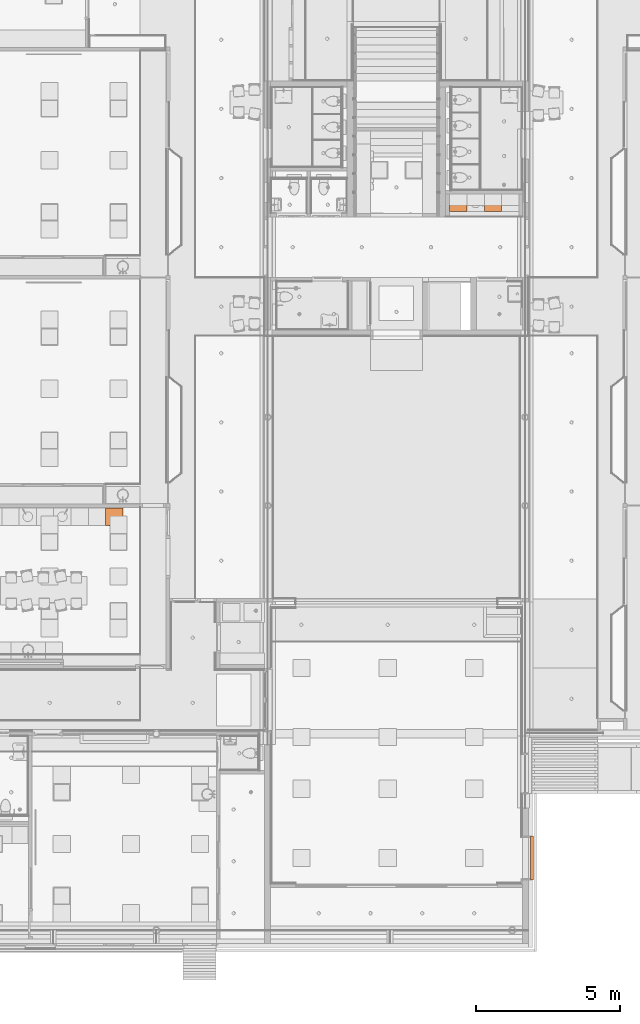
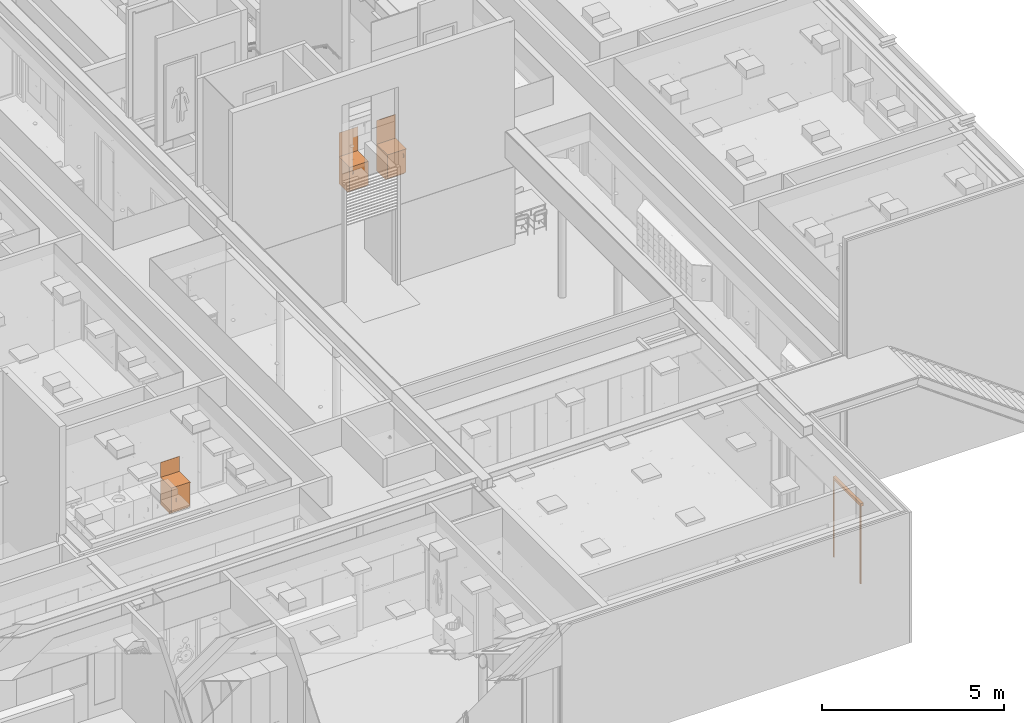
# One storey, part 346 of 347: 4 proxies.
"""IFC2X3 building model written with IfcOpenShell, lengths in millimetres."""

import ifcopenshell
import ifcopenshell.guid

model = None  # the IFC model being written
_history = None  # IfcOwnerHistory: only IFC2X3 demands one
_inside = {}  # id of a spatial element -> (the spatial element, [elements in it])
_under = {}  # id of a project, library or spatial element -> (it, [spatial elements below it])
_declared = {}  # id of a project -> (the project, [libraries it declares])
_typed = {}  # id of a type object -> (the type object, [elements of that type])
_made_of = {}  # id of a material, layer set ... -> (it, [elements and type objects made of it])


def new_model(schema):
    """Start an empty IFC model of exactly this schema.

    Asked for "IFC4X3", IfcOpenShell would pick the latest addendum, in which some entities
    have other attributes; the version numbers below select the first issue.
    IFC2X3 requires an IfcOwnerHistory on every rooted entity: one is made here for all.
    """
    global model, _history
    if schema == "IFC4X3":
        model = ifcopenshell.file(schema_version=(4, 3, 0, 0))
    else:
        model = ifcopenshell.file(schema=schema)
    _inside.clear()
    _under.clear()
    _declared.clear()
    _typed.clear()
    _made_of.clear()
    _history = None
    if model.schema == "IFC2X3":
        org = make("IfcOrganization", Name="unknown")
        user = make(
            "IfcPersonAndOrganization",
            ThePerson=make("IfcPerson", FamilyName="unknown"),
            TheOrganization=org,
        )
        app = make(
            "IfcApplication",
            ApplicationDeveloper=org,
            Version="unknown",
            ApplicationFullName="unknown",
            ApplicationIdentifier="unknown",
        )
        _history = make(
            "IfcOwnerHistory",
            OwningUser=user,
            OwningApplication=app,
            ChangeAction="ADDED",
            CreationDate=0,
        )
    return model


def make(cls, **values):
    """One entity of the class cls with the attributes given. An attribute that is None is left unset."""
    return model.create_entity(
        cls, **{name: value for name, value in values.items() if value is not None}
    )


def entity(cls, *values):
    """Any entity or typed value of the class cls, its attributes in the order of the schema. None: left unset."""
    e = model.create_entity(cls)
    for i, value in enumerate(values):
        if value is not None:
            e[i] = value
    return e


def rooted(cls, **values):
    """An entity with a GlobalId (a new one), such as an element, a storey or a relation."""
    return make(cls, GlobalId=ifcopenshell.guid.new(), OwnerHistory=_history, **values)


def si_unit(unit_type, name, prefix=None):
    """IfcSIUnit, for example si_unit("LENGTHUNIT", "METRE", prefix="MILLI")."""
    return make("IfcSIUnit", UnitType=unit_type, Prefix=prefix, Name=name)


def converted_unit(unit_type, name, factor, base, dimensions=None, offset=None):
    """IfcConversionBasedUnit, such as the inch: factor (a typed value) times the base unit."""
    return make(
        "IfcConversionBasedUnit"
        if offset is None
        else "IfcConversionBasedUnitWithOffset",
        ConversionOffset=offset,
        Dimensions=None
        if dimensions is None
        else entity("IfcDimensionalExponents", *dimensions),
        UnitType=unit_type,
        Name=name,
        ConversionFactor=make(
            "IfcMeasureWithUnit", ValueComponent=factor, UnitComponent=base
        ),
    )


def derived_unit(unit_type, elements):
    """IfcDerivedUnit: a product of units, each with its exponent."""
    return make(
        "IfcDerivedUnit",
        Elements=[
            make("IfcDerivedUnitElement", Unit=unit, Exponent=power)
            for unit, power in elements
        ],
        UnitType=unit_type,
    )


def money_unit(currency):
    """IfcMonetaryUnit."""
    return make("IfcMonetaryUnit", Currency=currency)


def assignment(units):
    """IfcUnitAssignment: the units of a project."""
    return None if units is None else make("IfcUnitAssignment", Units=units)


def point(xyz):
    """IfcCartesianPoint."""
    return None if xyz is None else make("IfcCartesianPoint", Coordinates=xyz)


def direction(xyz):
    """IfcDirection."""
    return None if xyz is None else make("IfcDirection", DirectionRatios=xyz)


def frame(location, z_axis=None, x_axis=None):
    """IfcAxis2Placement3D, a coordinate frame: its origin and axes. An axis left out is left unset."""
    return make(
        "IfcAxis2Placement3D",
        Location=point(location),
        Axis=direction(z_axis),
        RefDirection=direction(x_axis),
    )


def origin_with_axes():
    """The frame at (0, 0, 0) with the z axis (0, 0, 1) and the x axis (1, 0, 0) written out."""
    return frame((0.0, 0.0, 0.0), z_axis=(0.0, 0.0, 1.0), x_axis=(1.0, 0.0, 0.0))


def place(relative_to, where):
    """IfcLocalPlacement: puts the frame where relative to a parent placement (None: the world)."""
    return make(
        "IfcLocalPlacement", PlacementRelTo=relative_to, RelativePlacement=where
    )


def context(
    kind, dimensions, precision=None, world=None, true_north=None, identifier=None
):
    """IfcGeometricRepresentationContext, for example the 3D "Model" context."""
    return make(
        "IfcGeometricRepresentationContext",
        ContextIdentifier=identifier,
        ContextType=kind,
        CoordinateSpaceDimension=dimensions,
        Precision=precision,
        WorldCoordinateSystem=world,
        TrueNorth=true_north,
    )


def subcontext(parent, identifier, kind, view, scale=None):
    """IfcGeometricRepresentationSubContext, for example "Body" below "Model"."""
    return make(
        "IfcGeometricRepresentationSubContext",
        ContextIdentifier=identifier,
        ContextType=kind,
        ParentContext=parent,
        TargetScale=scale,
        TargetView=view,
    )


def project(units=None, contexts=None):
    """IfcProject with its units and contexts."""
    return rooted(
        "IfcProject",
        Name="project",
        RepresentationContexts=contexts,
        UnitsInContext=assignment(units),
    )


def spatial(cls, under=None, at=None, **own):
    """A site, building, storey or space (cls), placed at a placement, below another one or the project."""
    s = rooted(cls, ObjectPlacement=at, **own)
    if under is not None:
        _under.setdefault(under.id(), (under, []))[1].append(s)
    return s


def faces_of(points, faces, orient=None, outer=None):
    """IfcFace entities. A face is a list of loops; a loop is a list of indices into points, from 0.

    orient and outer hold one flag for each loop. By default every Orientation is true, the
    first loop of a face is its IfcFaceOuterBound and the others are IfcFaceBound.
    """
    made = []
    for i, loops in enumerate(faces):
        bounds = []
        for j, loop in enumerate(loops):
            is_outer = j == 0 if outer is None else outer[i][j]
            bounds.append(
                make(
                    "IfcFaceOuterBound" if is_outer else "IfcFaceBound",
                    Bound=make("IfcPolyLoop", Polygon=[points[k] for k in loop]),
                    Orientation=True if orient is None else orient[i][j],
                )
            )
        made.append(make("IfcFace", Bounds=bounds))
    return made


def open_shell(faces, orient=None, outer=None):
    """The faces of one IfcOpenShell. surface_model builds it on its shared points."""
    return ("IfcOpenShell", faces, orient, outer)


def faceted_brep(points, faces, orient=None, outer=None, voids=None):
    """IfcFacetedBrep: a solid bounded by flat faces; with voids (closed shells), ...WithVoids."""
    shared = [point(p) for p in points]
    hull = make("IfcClosedShell", CfsFaces=faces_of(shared, faces, orient, outer))
    if voids is None:
        return make("IfcFacetedBrep", Outer=hull)
    return make(
        "IfcFacetedBrepWithVoids",
        Outer=hull,
        Voids=[
            make(cls, CfsFaces=faces_of(shared, fs, o, b)) for cls, fs, o, b in voids
        ],
    )


def surface_model(cls, points, shells):
    """IfcFaceBasedSurfaceModel or IfcShellBasedSurfaceModel (cls): surfaces that need not close."""
    shared = [point(p) for p in points]
    made = [make(c, CfsFaces=faces_of(shared, fs, o, b)) for c, fs, o, b in shells]
    if cls == "IfcFaceBasedSurfaceModel":
        return make(cls, FbsmFaces=made)
    return make(cls, SbsmBoundary=made)


def shape(context_of_items, identifier, shape_type, items):
    """IfcShapeRepresentation: the items that make up one representation, for example the "Body"."""
    return make(
        "IfcShapeRepresentation",
        ContextOfItems=context_of_items,
        RepresentationIdentifier=identifier,
        RepresentationType=shape_type,
        Items=items,
    )


def made_of(thing, what):
    """Note that an element or type object is made of a material, layer set ...; save() writes the relation."""
    if what is not None:
        _made_of.setdefault(what.id(), (what, []))[1].append(thing)
    return thing


def type_object(cls, material=None, **own):
    """A type object (cls), such as IfcWallType, which elements share."""
    return made_of(rooted(cls, **own), material)


def element(
    cls,
    number,
    at=None,
    inside=None,
    cuts=None,
    type_object=None,
    material=None,
    context=None,
    identifier="Body",
    shape_type=None,
    held_by="IfcProductDefinitionShape",
    body=None,
    shapes=None,
    **own,
):
    """One element of the class cls, such as IfcWall. Its Tag is "e" and its number.

    at: its placement. inside: the storey or other place that contains it. cuts: it is an
    opening in that element (IfcRelVoidsElement). A single representation is given by context,
    identifier, shape_type and body (its items); several are given by shapes. held_by: the class
    of the entity that holds the representations. save() writes the other relations.
    """
    e = rooted(cls, Tag="e%d" % number, ObjectPlacement=at, **own)
    if body is not None:
        shapes = [shape(context, identifier, shape_type, body)]
    if shapes is not None:
        e.Representation = make(held_by, Representations=shapes)
    if inside is not None:
        _inside.setdefault(inside.id(), (inside, []))[1].append(e)
    if cuts is not None:
        rooted(
            "IfcRelVoidsElement", RelatingBuildingElement=cuts, RelatedOpeningElement=e
        )
    if type_object is not None:
        _typed.setdefault(type_object.id(), (type_object, []))[1].append(e)
    return made_of(e, material)


def aggregate(whole, parts):
    """IfcRelAggregates: a whole, such as a stair, and the parts it consists of."""
    return rooted("IfcRelAggregates", RelatingObject=whole, RelatedObjects=parts)


def save(model, path):
    """Write the relations noted so far, then the file.

    IfcRelAggregates (storeys below a building ...), IfcRelContainedInSpatialStructure (elements
    in a storey), IfcRelDefinesByType, IfcRelAssociatesMaterial and IfcRelDeclares: one each for
    every whole, place, type object, material and project.
    """
    for whole, parts in _under.values():
        aggregate(whole, parts)
    for where, things in _inside.values():
        rooted(
            "IfcRelContainedInSpatialStructure",
            RelatedElements=things,
            RelatingStructure=where,
        )
    for kind, things in _typed.values():
        rooted("IfcRelDefinesByType", RelatedObjects=things, RelatingType=kind)
    for what, things in _made_of.values():
        rooted("IfcRelAssociatesMaterial", RelatedObjects=things, RelatingMaterial=what)
    for by, libraries in _declared.values():
        rooted("IfcRelDeclares", RelatingContext=by, RelatedDefinitions=libraries)
    model.write(path)


model = new_model("IFC2X3")

# Units and contexts
model_context = context("Model", 3, precision=0.01, world=origin_with_axes(), true_north=direction((0.0, 1.0)))
plan_context = context("Plan", 3, precision=0.01, world=origin_with_axes(), true_north=direction((0.0, 1.0)))
body_context = subcontext(model_context, "Body", "Model", "MODEL_VIEW")
ifc_project = project(units=[si_unit("LENGTHUNIT", "METRE", prefix="MILLI"), si_unit("AREAUNIT", "SQUARE_METRE"), si_unit("VOLUMEUNIT", "CUBIC_METRE"), converted_unit("PLANEANGLEUNIT", "DEGREE", entity("IfcPlaneAngleMeasure", 0.0174532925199), si_unit("PLANEANGLEUNIT", "RADIAN"), dimensions=[0, 0, 0, 0, 0, 0, 0]), money_unit("EUR"), converted_unit("TIMEUNIT", "Year", entity("IfcTimeMeasure", 31556926.0), si_unit("TIMEUNIT", "SECOND"), dimensions=[0, 0, 1, 0, 0, 0, 0]), si_unit("MASSUNIT", "GRAM", prefix="KILO"), si_unit("THERMODYNAMICTEMPERATUREUNIT", "DEGREE_CELSIUS"), si_unit("LUMINOUSINTENSITYUNIT", "LUMEN"), si_unit("ENERGYUNIT", "JOULE", prefix="MEGA"), derived_unit("THERMALCONDUCTANCEUNIT", [(si_unit("POWERUNIT", "WATT"), 1), (si_unit("LENGTHUNIT", "METRE"), -1), (si_unit("THERMODYNAMICTEMPERATUREUNIT", "KELVIN"), -1)]), derived_unit("SPECIFICHEATCAPACITYUNIT", [(si_unit("ENERGYUNIT", "JOULE"), 1), (si_unit("MASSUNIT", "GRAM", prefix="KILO"), -1), (si_unit("THERMODYNAMICTEMPERATUREUNIT", "KELVIN"), -1)]), derived_unit("MASSDENSITYUNIT", [(si_unit("MASSUNIT", "GRAM", prefix="KILO"), 1), (si_unit("VOLUMEUNIT", "CUBIC_METRE"), -1)])], contexts=[model_context, plan_context])

# Site, building, storey
site_placement = place(None, origin_with_axes())
site = spatial("IfcSite", under=ifc_project, at=site_placement, Name="Site", CompositionType="ELEMENT")
building_placement = place(site_placement, origin_with_axes())
building = spatial("IfcBuilding", under=site, at=building_placement, Name="Naam gebouw", CompositionType="ELEMENT")
storey_placement = place(building_placement, origin_with_axes())
storey = spatial("IfcBuildingStorey", under=building, at=storey_placement, Name="begane grond", CompositionType="ELEMENT", Elevation=0.0)

# Proxies
building_element_proxy_type_1 = type_object("IfcBuildingElementProxyType", Name="Onderkast recht 25", PredefinedType="NOTDEFINED")
proxy_1_placement = place(storey_placement, frame((43125.0, 30864.9999277, 0.0), z_axis=(0.0, 0.0, 1.0), x_axis=(1.0, 0.0, 0.0)))
element("IfcBuildingElementProxy", 1, at=proxy_1_placement, inside=storey, type_object=building_element_proxy_type_1, Name="_73 pantryblok", context=body_context, shape_type="Brep", body=[
    faceted_brep([(600.0, -492.0, 2.0), (600.0, 1.1205766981e-05, 2.0), (600.0, 0.0, 100.0), (600.0, -492.0, 100.0), (0.0, 1.1205766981e-05, 2.0), (0.0, -492.0, 2.0), (0.0, 0.0, 100.0), (0.0, -492.0, 100.0)], [[[0, 1, 2, 3]], [[4, 1, 0, 5]], [[1, 4, 6, 2]], [[6, 7, 3, 2]], [[5, 0, 3, 7]], [[4, 5, 7, 6]]]),
    faceted_brep([(0.0, -600.0, 870.0), (600.0, -600.0, 870.0), (600.0, -600.0, 900.0), (0.0, -600.0, 900.0), (0.0, 0.0, 870.0), (600.0, 0.0, 870.0), (600.0, 0.0, 900.0), (0.0, 0.0, 900.0)], [[[0, 1, 2, 3]], [[0, 4, 5, 1]], [[1, 5, 6, 2]], [[3, 2, 6, 7]], [[4, 0, 3, 7]], [[5, 4, 7, 6]]]),
    faceted_brep([(600.0, 0.0, 900.0), (600.0, -6.0, 900.0), (0.0, -6.0, 900.0), (0.0, 0.0, 900.0), (600.0, 0.0, 1700.0), (600.0, -6.0, 1700.0), (0.0, -6.0, 1700.0), (0.0, 0.0, 1700.0)], [[[0, 1, 2, 3]], [[0, 4, 5, 1]], [[1, 5, 6, 2]], [[3, 2, 6, 7]], [[4, 0, 3, 7]], [[5, 4, 7, 6]]]),
    faceted_brep([(496.0, -590.0, 641.0), (496.0, -590.0, 651.0), (506.0, -590.0, 651.0), (506.0, -590.0, 641.0), (496.0, -600.0, 641.0), (496.0, -603.472963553, 641.30384494), (496.0, -606.840402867, 642.206147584), (496.0, -610.0, 643.679491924), (496.0, -612.855752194, 645.679111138), (496.0, -615.320888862, 648.144247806), (496.0, -617.320508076, 651.0), (496.0, -618.793852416, 654.159597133), (496.0, -619.69615506, 657.527036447), (496.0, -620.0, 661.0), (496.0, -620.0, 741.0), (496.0, -619.69615506, 744.472963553), (496.0, -618.793852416, 747.840402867), (496.0, -617.320508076, 751.0), (496.0, -615.320888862, 753.855752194), (496.0, -612.855752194, 756.320888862), (496.0, -610.0, 758.320508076), (496.0, -606.840402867, 759.793852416), (496.0, -603.472963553, 760.69615506), (496.0, -600.0, 761.0), (496.0, -590.0, 761.0), (496.0, -590.0, 751.0), (496.0, -600.0, 751.0), (496.0, -601.736481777, 750.84807753), (496.0, -603.420201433, 750.396926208), (496.0, -605.0, 749.660254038), (496.0, -606.427876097, 748.660444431), (496.0, -607.660444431, 747.427876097), (496.0, -608.660254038, 746.0), (496.0, -609.396926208, 744.420201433), (496.0, -609.84807753, 742.736481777), (496.0, -610.0, 741.0), (496.0, -610.0, 661.0), (496.0, -609.84807753, 659.263518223), (496.0, -609.396926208, 657.579798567), (496.0, -608.660254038, 656.0), (496.0, -607.660444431, 654.572123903), (496.0, -606.427876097, 653.339555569), (496.0, -605.0, 652.339745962), (496.0, -603.420201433, 651.603073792), (496.0, -601.736481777, 651.15192247), (496.0, -600.0, 651.0), (506.0, -600.0, 651.0), (506.0, -601.736481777, 651.15192247), (506.0, -603.420201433, 651.603073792), (506.0, -605.0, 652.339745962), (506.0, -606.427876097, 653.339555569), (506.0, -607.660444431, 654.572123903), (506.0, -608.660254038, 656.0), (506.0, -609.396926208, 657.579798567), (506.0, -609.84807753, 659.263518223), (506.0, -610.0, 661.0), (506.0, -610.0, 741.0), (506.0, -609.84807753, 742.736481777), (506.0, -609.396926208, 744.420201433), (506.0, -608.660254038, 746.0), (506.0, -607.660444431, 747.427876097), (506.0, -606.427876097, 748.660444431), (506.0, -605.0, 749.660254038), (506.0, -603.420201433, 750.396926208), (506.0, -601.736481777, 750.84807753), (506.0, -600.0, 751.0), (506.0, -590.0, 751.0), (506.0, -590.0, 761.0), (506.0, -600.0, 761.0), (506.0, -603.472963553, 760.69615506), (506.0, -606.840402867, 759.793852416), (506.0, -610.0, 758.320508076), (506.0, -612.855752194, 756.320888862), (506.0, -615.320888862, 753.855752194), (506.0, -617.320508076, 751.0), (506.0, -618.793852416, 747.840402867), (506.0, -619.69615506, 744.472963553), (506.0, -620.0, 741.0), (506.0, -620.0, 661.0), (506.0, -619.69615506, 657.527036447), (506.0, -618.793852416, 654.159597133), (506.0, -617.320508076, 651.0), (506.0, -615.320888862, 648.144247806), (506.0, -612.855752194, 645.679111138), (506.0, -610.0, 643.679491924), (506.0, -606.840402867, 642.206147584), (506.0, -603.472963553, 641.30384494), (506.0, -600.0, 641.0)], [[[0, 1, 2, 3]], [[0, 4, 5, 6, 7, 8, 9, 10, 11, 12, 13, 14, 15, 16, 17, 18, 19, 20, 21, 22, 23, 24, 25, 26, 27, 28, 29, 30, 31, 32, 33, 34, 35, 36, 37, 38, 39, 40, 41, 42, 43, 44, 45, 1]], [[1, 45, 46, 2]], [[3, 2, 46, 47, 48, 49, 50, 51, 52, 53, 54, 55, 56, 57, 58, 59, 60, 61, 62, 63, 64, 65, 66, 67, 68, 69, 70, 71, 72, 73, 74, 75, 76, 77, 78, 79, 80, 81, 82, 83, 84, 85, 86, 87]], [[4, 0, 3, 87]], [[5, 4, 87, 86]], [[6, 5, 86, 85]], [[7, 6, 85, 84]], [[8, 7, 84, 83]], [[9, 8, 83, 82]], [[10, 9, 82, 81]], [[11, 10, 81, 80]], [[12, 11, 80, 79]], [[13, 12, 79, 78]], [[14, 13, 78, 77]], [[15, 14, 77, 76]], [[16, 15, 76, 75]], [[17, 16, 75, 74]], [[18, 17, 74, 73]], [[19, 18, 73, 72]], [[20, 19, 72, 71]], [[21, 20, 71, 70]], [[22, 21, 70, 69]], [[23, 22, 69, 68]], [[24, 23, 68, 67]], [[25, 24, 67, 66]], [[26, 25, 66, 65]], [[27, 26, 65, 64]], [[28, 27, 64, 63]], [[29, 28, 63, 62]], [[30, 29, 62, 61]], [[31, 30, 61, 60]], [[32, 31, 60, 59]], [[33, 32, 59, 58]], [[34, 33, 58, 57]], [[35, 34, 57, 56]], [[36, 35, 56, 55]], [[37, 36, 55, 54]], [[38, 37, 54, 53]], [[39, 38, 53, 52]], [[40, 39, 52, 51]], [[41, 40, 51, 50]], [[42, 41, 50, 49]], [[43, 42, 49, 48]], [[44, 43, 48, 47]], [[45, 44, 47, 46]]]),
    faceted_brep([(0.999999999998, -572.0, 101.0), (599.0, -572.0, 101.0), (599.0, -590.0, 101.0), (0.999999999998, -590.0, 101.0), (0.999999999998, -572.0, 869.0), (599.0, -572.0, 869.0), (599.0, -590.0, 869.0), (0.999999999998, -590.0, 869.0)], [[[0, 1, 2, 3]], [[0, 4, 5, 1]], [[1, 5, 6, 2]], [[3, 2, 6, 7]], [[4, 0, 3, 7]], [[5, 4, 7, 6]]]),
    faceted_brep([(18.0, -572.0, 100.0), (582.0, -572.0, 100.0), (582.0, -572.0, 118.0), (18.0, -572.0, 118.0), (18.0, 0.0, 100.0), (582.0, 0.0, 100.0), (582.0, 0.0, 118.0), (18.0, 0.0, 118.0)], [[[0, 1, 2, 3]], [[0, 4, 5, 1]], [[1, 5, 6, 2]], [[3, 2, 6, 7]], [[4, 0, 3, 7]], [[5, 4, 7, 6]]]),
    faceted_brep([(18.0, -572.0, 852.0), (18.0, -512.0, 852.0), (582.0, -512.0, 852.0), (582.0, -572.0, 852.0), (18.0, -572.0, 870.0), (18.0, -512.0, 870.0), (582.0, -512.0, 870.0), (582.0, -572.0, 870.0)], [[[0, 1, 2, 3]], [[0, 4, 5, 1]], [[1, 5, 6, 2]], [[3, 2, 6, 7]], [[4, 0, 3, 7]], [[5, 4, 7, 6]]]),
    faceted_brep([(582.0, 0.0, 852.0), (582.0, -60.0, 852.0), (18.0, -60.0, 852.0), (18.0, 0.0, 852.0), (582.0, 0.0, 870.0), (582.0, -60.0, 870.0), (18.0, -60.0, 870.0), (18.0, 0.0, 870.0)], [[[0, 1, 2, 3]], [[0, 4, 5, 1]], [[1, 5, 6, 2]], [[3, 2, 6, 7]], [[4, 0, 3, 7]], [[5, 4, 7, 6]]]),
    faceted_brep([(0.0, 0.0, 100.0), (0.0, -572.0, 100.0), (0.0, -572.0, 870.0), (0.0, 0.0, 870.0), (18.0, 0.0, 100.0), (18.0, -572.0, 100.0), (18.0, -572.0, 870.0), (18.0, 0.0, 870.0)], [[[0, 1, 2, 3]], [[0, 4, 5, 1]], [[1, 5, 6, 2]], [[3, 2, 6, 7]], [[4, 0, 3, 7]], [[5, 4, 7, 6]]]),
    faceted_brep([(600.0, -572.0, 100.0), (600.0, 0.0, 100.0), (600.0, 0.0, 870.0), (600.0, -572.0, 870.0), (582.0, -572.0, 100.0), (582.0, 0.0, 100.0), (582.0, 0.0, 870.0), (582.0, -572.0, 870.0)], [[[0, 1, 2, 3]], [[0, 4, 5, 1]], [[1, 5, 6, 2]], [[3, 2, 6, 7]], [[4, 0, 3, 7]], [[5, 4, 7, 6]]]),
    faceted_brep([(582.0, -9.0, 118.0), (18.0, -9.0, 118.0), (18.0, -9.0, 852.0), (582.0, -9.0, 852.0), (582.0, -18.0, 118.0), (18.0, -18.0, 118.0), (18.0, -18.0, 852.0), (582.0, -18.0, 852.0)], [[[0, 1, 2, 3]], [[0, 4, 5, 1]], [[1, 5, 6, 2]], [[3, 2, 6, 7]], [[4, 0, 3, 7]], [[5, 4, 7, 6]]]),
])
proxy_2_placement = place(storey_placement, frame((30575.0, 19967.5, 0.0), z_axis=(0.0, 0.0, 1.0), x_axis=(1.0, 0.0, 0.0)))
element("IfcBuildingElementProxy", 2, at=proxy_2_placement, inside=storey, type_object=building_element_proxy_type_1, Name="_73 pantryblok", context=body_context, shape_type="Brep", body=[
    faceted_brep([(0.0, -492.0, 2.0), (0.0, 0.0, 2.0), (0.0, 0.0, 100.0), (0.0, -492.0, 100.0), (-600.0, 0.0, 2.0), (-600.0, -492.0, 2.0), (-600.0, 0.0, 100.0), (-600.0, -492.0, 100.0)], [[[0, 1, 2, 3]], [[4, 1, 0, 5]], [[1, 4, 6, 2]], [[7, 3, 2, 6]], [[5, 0, 3, 7]], [[4, 5, 7, 6]]]),
    faceted_brep([(0.0, -600.0, 900.0), (0.0, -600.0, 930.0), (-600.0, -600.0, 930.0), (-600.0, -600.0, 900.0), (0.0, 0.0, 900.0), (0.0, 0.0, 930.0), (-600.0, 0.0, 930.0), (-600.0, 0.0, 900.0)], [[[0, 1, 2, 3]], [[4, 5, 1, 0]], [[1, 5, 6, 2]], [[3, 2, 6, 7]], [[0, 3, 7, 4]], [[7, 6, 5, 4]]]),
    faceted_brep([(-600.0, 0.0, 930.0), (0.0, 0.0, 930.0), (0.0, -6.0, 930.0), (-600.0, -6.0, 930.0), (-600.0, 0.0, 1430.0), (0.0, 0.0, 1430.0), (0.0, -6.0, 1430.0), (-600.0, -6.0, 1430.0)], [[[0, 1, 2, 3]], [[4, 5, 1, 0]], [[1, 5, 6, 2]], [[3, 2, 6, 7]], [[0, 3, 7, 4]], [[7, 6, 5, 4]]]),
    faceted_brep([(-446.0, -590.0, 416.0), (-456.0, -590.0, 416.0), (-456.0, -590.0, 426.0), (-446.0, -590.0, 426.0), (-446.0, -600.0, 416.0), (-456.0, -600.0, 416.0), (-456.0, -603.472963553, 416.30384494), (-456.0, -606.840402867, 417.206147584), (-456.0, -610.0, 418.679491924), (-456.0, -612.855752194, 420.679111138), (-456.0, -615.320888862, 423.144247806), (-456.0, -617.320508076, 426.0), (-456.0, -618.793852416, 429.159597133), (-456.0, -619.69615506, 432.527036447), (-456.0, -620.0, 436.0), (-456.0, -620.0, 516.0), (-456.0, -619.69615506, 519.472963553), (-456.0, -618.793852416, 522.840402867), (-456.0, -617.320508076, 526.0), (-456.0, -615.320888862, 528.855752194), (-456.0, -612.855752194, 531.320888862), (-456.0, -610.0, 533.320508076), (-456.0, -606.840402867, 534.793852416), (-456.0, -603.472963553, 535.69615506), (-456.0, -600.0, 536.0), (-456.0, -590.0, 536.0), (-456.0, -590.0, 526.0), (-456.0, -600.0, 526.0), (-456.0, -601.736481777, 525.84807753), (-456.0, -603.420201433, 525.396926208), (-456.0, -605.0, 524.660254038), (-456.0, -606.427876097, 523.660444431), (-456.0, -607.660444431, 522.427876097), (-456.0, -608.660254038, 521.0), (-456.0, -609.396926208, 519.420201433), (-456.0, -609.84807753, 517.736481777), (-456.0, -610.0, 516.0), (-456.0, -610.0, 436.0), (-456.0, -609.84807753, 434.263518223), (-456.0, -609.396926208, 432.579798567), (-456.0, -608.660254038, 431.0), (-456.0, -607.660444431, 429.572123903), (-456.0, -606.427876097, 428.339555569), (-456.0, -605.0, 427.339745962), (-456.0, -603.420201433, 426.603073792), (-456.0, -601.736481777, 426.15192247), (-456.0, -600.0, 426.0), (-446.0, -600.0, 426.0), (-446.0, -601.736481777, 426.15192247), (-446.0, -603.420201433, 426.603073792), (-446.0, -605.0, 427.339745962), (-446.0, -606.427876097, 428.339555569), (-446.0, -607.660444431, 429.572123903), (-446.0, -608.660254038, 431.0), (-446.0, -609.396926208, 432.579798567), (-446.0, -609.84807753, 434.263518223), (-446.0, -610.0, 436.0), (-446.0, -610.0, 516.0), (-446.0, -609.84807753, 517.736481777), (-446.0, -609.396926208, 519.420201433), (-446.0, -608.660254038, 521.0), (-446.0, -607.660444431, 522.427876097), (-446.0, -606.427876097, 523.660444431), (-446.0, -605.0, 524.660254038), (-446.0, -603.420201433, 525.396926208), (-446.0, -601.736481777, 525.84807753), (-446.0, -600.0, 526.0), (-446.0, -590.0, 526.0), (-446.0, -590.0, 536.0), (-446.0, -600.0, 536.0), (-446.0, -603.472963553, 535.69615506), (-446.0, -606.840402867, 534.793852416), (-446.0, -610.0, 533.320508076), (-446.0, -612.855752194, 531.320888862), (-446.0, -615.320888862, 528.855752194), (-446.0, -617.320508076, 526.0), (-446.0, -618.793852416, 522.840402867), (-446.0, -619.69615506, 519.472963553), (-446.0, -620.0, 516.0), (-446.0, -620.0, 436.0), (-446.0, -619.69615506, 432.527036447), (-446.0, -618.793852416, 429.159597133), (-446.0, -617.320508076, 426.0), (-446.0, -615.320888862, 423.144247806), (-446.0, -612.855752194, 420.679111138), (-446.0, -610.0, 418.679491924), (-446.0, -606.840402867, 417.206147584), (-446.0, -603.472963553, 416.30384494)], [[[0, 1, 2, 3]], [[4, 5, 1, 0]], [[1, 5, 6, 7, 8, 9, 10, 11, 12, 13, 14, 15, 16, 17, 18, 19, 20, 21, 22, 23, 24, 25, 26, 27, 28, 29, 30, 31, 32, 33, 34, 35, 36, 37, 38, 39, 40, 41, 42, 43, 44, 45, 46, 2]], [[3, 2, 46, 47]], [[0, 3, 47, 48, 49, 50, 51, 52, 53, 54, 55, 56, 57, 58, 59, 60, 61, 62, 63, 64, 65, 66, 67, 68, 69, 70, 71, 72, 73, 74, 75, 76, 77, 78, 79, 80, 81, 82, 83, 84, 85, 86, 87, 4]], [[87, 6, 5, 4]], [[86, 7, 6, 87]], [[85, 8, 7, 86]], [[84, 9, 8, 85]], [[83, 10, 9, 84]], [[82, 11, 10, 83]], [[81, 12, 11, 82]], [[80, 13, 12, 81]], [[79, 14, 13, 80]], [[78, 15, 14, 79]], [[77, 16, 15, 78]], [[76, 17, 16, 77]], [[75, 18, 17, 76]], [[74, 19, 18, 75]], [[73, 20, 19, 74]], [[72, 21, 20, 73]], [[71, 22, 21, 72]], [[70, 23, 22, 71]], [[69, 24, 23, 70]], [[68, 25, 24, 69]], [[67, 26, 25, 68]], [[66, 27, 26, 67]], [[65, 28, 27, 66]], [[64, 29, 28, 65]], [[63, 30, 29, 64]], [[62, 31, 30, 63]], [[61, 32, 31, 62]], [[60, 33, 32, 61]], [[59, 34, 33, 60]], [[58, 35, 34, 59]], [[57, 36, 35, 58]], [[56, 37, 36, 57]], [[55, 38, 37, 56]], [[54, 39, 38, 55]], [[53, 40, 39, 54]], [[52, 41, 40, 53]], [[51, 42, 41, 52]], [[50, 43, 42, 51]], [[49, 44, 43, 50]], [[48, 45, 44, 49]], [[47, 46, 45, 48]]]),
    faceted_brep([(-1.0, -572.0, 101.0), (-1.0, -590.0, 101.0), (-599.0, -590.0, 101.0), (-599.0, -572.0, 101.0), (-1.0, -572.0, 899.0), (-1.0, -590.0, 899.0), (-599.0, -590.0, 899.0), (-599.0, -572.0, 899.0)], [[[0, 1, 2, 3]], [[4, 5, 1, 0]], [[1, 5, 6, 2]], [[3, 2, 6, 7]], [[0, 3, 7, 4]], [[7, 6, 5, 4]]]),
    faceted_brep([(-18.0, -572.0, 100.0), (-18.0, -572.0, 118.0), (-582.0, -572.0, 118.0), (-582.0, -572.0, 100.0), (-18.0, 0.0, 100.0), (-18.0, 0.0, 118.0), (-582.0, 0.0, 118.0), (-582.0, 0.0, 100.0)], [[[0, 1, 2, 3]], [[4, 5, 1, 0]], [[1, 5, 6, 2]], [[3, 2, 6, 7]], [[0, 3, 7, 4]], [[7, 6, 5, 4]]]),
    faceted_brep([(-18.0, -572.0, 882.0), (-582.0, -572.0, 882.0), (-582.0, -512.0, 882.0), (-18.0, -512.0, 882.0), (-18.0, -572.0, 900.0), (-582.0, -572.0, 900.0), (-582.0, -512.0, 900.0), (-18.0, -512.0, 900.0)], [[[0, 1, 2, 3]], [[4, 5, 1, 0]], [[1, 5, 6, 2]], [[3, 2, 6, 7]], [[0, 3, 7, 4]], [[7, 6, 5, 4]]]),
    faceted_brep([(-582.0, 0.0, 882.0), (-18.0, 0.0, 882.0), (-18.0, -60.0, 882.0), (-582.0, -60.0, 882.0), (-582.0, 0.0, 900.0), (-18.0, 0.0, 900.0), (-18.0, -60.0, 900.0), (-582.0, -60.0, 900.0)], [[[0, 1, 2, 3]], [[4, 5, 1, 0]], [[1, 5, 6, 2]], [[3, 2, 6, 7]], [[0, 3, 7, 4]], [[7, 6, 5, 4]]]),
    faceted_brep([(0.0, 0.0, 100.0), (0.0, 0.0, 900.0), (0.0, -572.0, 900.0), (0.0, -572.0, 100.0), (-18.0, 0.0, 100.0), (-18.0, 0.0, 900.0), (-18.0, -572.0, 900.0), (-18.0, -572.0, 100.0)], [[[0, 1, 2, 3]], [[4, 5, 1, 0]], [[1, 5, 6, 2]], [[3, 2, 6, 7]], [[0, 3, 7, 4]], [[7, 6, 5, 4]]]),
    faceted_brep([(-600.0, -572.0, 100.0), (-600.0, -572.0, 900.0), (-600.0, 0.0, 900.0), (-600.0, 0.0, 100.0), (-582.0, -572.0, 100.0), (-582.0, -572.0, 900.0), (-582.0, 0.0, 900.0), (-582.0, 0.0, 100.0)], [[[0, 1, 2, 3]], [[4, 5, 1, 0]], [[1, 5, 6, 2]], [[3, 2, 6, 7]], [[0, 3, 7, 4]], [[7, 6, 5, 4]]]),
    faceted_brep([(-582.0, -9.0, 118.0), (-582.0, -9.0, 882.0), (-18.0, -9.0, 882.0), (-18.0, -9.0, 118.0), (-582.0, -18.0, 118.0), (-582.0, -18.0, 882.0), (-18.0, -18.0, 882.0), (-18.0, -18.0, 118.0)], [[[0, 1, 2, 3]], [[4, 5, 1, 0]], [[1, 5, 6, 2]], [[3, 2, 6, 7]], [[0, 3, 7, 4]], [[7, 6, 5, 4]]]),
])
proxy_3_placement = place(storey_placement, frame((42525.0, 30864.9999277, 0.0), z_axis=(0.0, 0.0, 1.0), x_axis=(1.0, 0.0, 0.0)))
element("IfcBuildingElementProxy", 3, at=proxy_3_placement, inside=storey, type_object=building_element_proxy_type_1, Name="_73 pantryblok", context=body_context, shape_type="Brep", body=[
    faceted_brep([(0.0, -492.0, 2.0), (0.0, 1.1205766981e-05, 2.0), (0.0, 0.0, 100.0), (0.0, -492.0, 100.0), (-599.999971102, 1.1205766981e-05, 2.0), (-599.999971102, -492.0, 2.0), (-600.0, 0.0, 100.0), (-600.0, -492.0, 100.0)], [[[0, 1, 2, 3]], [[4, 1, 0, 5]], [[1, 4, 6, 2]], [[7, 3, 2, 6]], [[5, 0, 3, 7]], [[4, 5, 7, 6]]]),
    faceted_brep([(0.0, -600.0, 870.0), (0.0, -600.0, 900.0), (-600.0, -600.0, 900.0), (-600.0, -600.0, 870.0), (0.0, 0.0, 870.0), (0.0, 0.0, 900.0), (-600.0, 0.0, 900.0), (-600.0, 0.0, 870.0)], [[[0, 1, 2, 3]], [[4, 5, 1, 0]], [[1, 5, 6, 2]], [[3, 2, 6, 7]], [[0, 3, 7, 4]], [[7, 6, 5, 4]]]),
    faceted_brep([(-600.0, 0.0, 900.0), (0.0, 0.0, 900.0), (0.0, -6.0, 900.0), (-600.0, -6.0, 900.0), (-600.0, 0.0, 1700.0), (0.0, 0.0, 1700.0), (0.0, -6.0, 1700.0), (-600.0, -6.0, 1700.0)], [[[0, 1, 2, 3]], [[4, 5, 1, 0]], [[1, 5, 6, 2]], [[3, 2, 6, 7]], [[0, 3, 7, 4]], [[7, 6, 5, 4]]]),
    faceted_brep([(-496.0, -590.0, 641.0), (-506.0, -590.0, 641.0), (-506.0, -590.0, 651.0), (-496.0, -590.0, 651.0), (-496.0, -600.0, 641.0), (-506.0, -600.0, 641.0), (-506.0, -603.472963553, 641.30384494), (-506.0, -606.840402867, 642.206147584), (-506.0, -610.0, 643.679491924), (-506.0, -612.855752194, 645.679111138), (-506.0, -615.320888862, 648.144247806), (-506.0, -617.320508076, 651.0), (-506.0, -618.793852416, 654.159597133), (-506.0, -619.69615506, 657.527036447), (-506.0, -620.0, 661.0), (-506.0, -620.0, 741.0), (-506.0, -619.69615506, 744.472963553), (-506.0, -618.793852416, 747.840402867), (-506.0, -617.320508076, 751.0), (-506.0, -615.320888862, 753.855752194), (-506.0, -612.855752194, 756.320888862), (-506.0, -610.0, 758.320508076), (-506.0, -606.840402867, 759.793852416), (-506.0, -603.472963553, 760.69615506), (-506.0, -600.0, 761.0), (-506.0, -590.0, 761.0), (-506.0, -590.0, 751.0), (-506.0, -600.0, 751.0), (-506.0, -601.736481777, 750.84807753), (-506.0, -603.420201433, 750.396926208), (-506.0, -605.0, 749.660254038), (-506.0, -606.427876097, 748.660444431), (-506.0, -607.660444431, 747.427876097), (-506.0, -608.660254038, 746.0), (-506.0, -609.396926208, 744.420201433), (-506.0, -609.84807753, 742.736481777), (-506.0, -610.0, 741.0), (-506.0, -610.0, 661.0), (-506.0, -609.84807753, 659.263518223), (-506.0, -609.396926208, 657.579798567), (-506.0, -608.660254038, 656.0), (-506.0, -607.660444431, 654.572123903), (-506.0, -606.427876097, 653.339555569), (-506.0, -605.0, 652.339745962), (-506.0, -603.420201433, 651.603073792), (-506.0, -601.736481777, 651.15192247), (-506.0, -600.0, 651.0), (-496.0, -600.0, 651.0), (-496.0, -601.736481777, 651.15192247), (-496.0, -603.420201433, 651.603073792), (-496.0, -605.0, 652.339745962), (-496.0, -606.427876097, 653.339555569), (-496.0, -607.660444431, 654.572123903), (-496.0, -608.660254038, 656.0), (-496.0, -609.396926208, 657.579798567), (-496.0, -609.84807753, 659.263518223), (-496.0, -610.0, 661.0), (-496.0, -610.0, 741.0), (-496.0, -609.84807753, 742.736481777), (-496.0, -609.396926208, 744.420201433), (-496.0, -608.660254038, 746.0), (-496.0, -607.660444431, 747.427876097), (-496.0, -606.427876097, 748.660444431), (-496.0, -605.0, 749.660254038), (-496.0, -603.420201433, 750.396926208), (-496.0, -601.736481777, 750.84807753), (-496.0, -600.0, 751.0), (-496.0, -590.0, 751.0), (-496.0, -590.0, 761.0), (-496.0, -600.0, 761.0), (-496.0, -603.472963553, 760.69615506), (-496.0, -606.840402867, 759.793852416), (-496.0, -610.0, 758.320508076), (-496.0, -612.855752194, 756.320888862), (-496.0, -615.320888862, 753.855752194), (-496.0, -617.320508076, 751.0), (-496.0, -618.793852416, 747.840402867), (-496.0, -619.69615506, 744.472963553), (-496.0, -620.0, 741.0), (-496.0, -620.0, 661.0), (-496.0, -619.69615506, 657.527036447), (-496.0, -618.793852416, 654.159597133), (-496.0, -617.320508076, 651.0), (-496.0, -615.320888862, 648.144247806), (-496.0, -612.855752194, 645.679111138), (-496.0, -610.0, 643.679491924), (-496.0, -606.840402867, 642.206147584), (-496.0, -603.472963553, 641.30384494)], [[[0, 1, 2, 3]], [[4, 5, 1, 0]], [[1, 5, 6, 7, 8, 9, 10, 11, 12, 13, 14, 15, 16, 17, 18, 19, 20, 21, 22, 23, 24, 25, 26, 27, 28, 29, 30, 31, 32, 33, 34, 35, 36, 37, 38, 39, 40, 41, 42, 43, 44, 45, 46, 2]], [[3, 2, 46, 47]], [[0, 3, 47, 48, 49, 50, 51, 52, 53, 54, 55, 56, 57, 58, 59, 60, 61, 62, 63, 64, 65, 66, 67, 68, 69, 70, 71, 72, 73, 74, 75, 76, 77, 78, 79, 80, 81, 82, 83, 84, 85, 86, 87, 4]], [[87, 6, 5, 4]], [[86, 7, 6, 87]], [[85, 8, 7, 86]], [[84, 9, 8, 85]], [[83, 10, 9, 84]], [[82, 11, 10, 83]], [[81, 12, 11, 82]], [[80, 13, 12, 81]], [[79, 14, 13, 80]], [[78, 15, 14, 79]], [[77, 16, 15, 78]], [[76, 17, 16, 77]], [[75, 18, 17, 76]], [[74, 19, 18, 75]], [[73, 20, 19, 74]], [[72, 21, 20, 73]], [[71, 22, 21, 72]], [[70, 23, 22, 71]], [[69, 24, 23, 70]], [[68, 25, 24, 69]], [[67, 26, 25, 68]], [[66, 27, 26, 67]], [[65, 28, 27, 66]], [[64, 29, 28, 65]], [[63, 30, 29, 64]], [[62, 31, 30, 63]], [[61, 32, 31, 62]], [[60, 33, 32, 61]], [[59, 34, 33, 60]], [[58, 35, 34, 59]], [[57, 36, 35, 58]], [[56, 37, 36, 57]], [[55, 38, 37, 56]], [[54, 39, 38, 55]], [[53, 40, 39, 54]], [[52, 41, 40, 53]], [[51, 42, 41, 52]], [[50, 43, 42, 51]], [[49, 44, 43, 50]], [[48, 45, 44, 49]], [[47, 46, 45, 48]]]),
    faceted_brep([(-0.999999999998, -572.0, 101.0), (-0.999999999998, -590.0, 101.0), (-599.0, -590.0, 101.0), (-599.0, -572.0, 101.0), (-0.999999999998, -572.0, 869.0), (-0.999999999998, -590.0, 869.0), (-599.0, -590.0, 869.0), (-599.0, -572.0, 869.0)], [[[0, 1, 2, 3]], [[4, 5, 1, 0]], [[1, 5, 6, 2]], [[3, 2, 6, 7]], [[0, 3, 7, 4]], [[7, 6, 5, 4]]]),
    faceted_brep([(-18.0, -572.0, 100.0), (-18.0, -572.0, 118.0), (-582.0, -572.0, 118.0), (-582.0, -572.0, 100.0), (-18.0, 0.0, 100.0), (-18.0, 0.0, 118.0), (-582.0, 0.0, 118.0), (-582.0, 0.0, 100.0)], [[[0, 1, 2, 3]], [[4, 5, 1, 0]], [[1, 5, 6, 2]], [[3, 2, 6, 7]], [[0, 3, 7, 4]], [[7, 6, 5, 4]]]),
    faceted_brep([(-18.0, -572.0, 852.0), (-582.0, -572.0, 852.0), (-582.0, -512.0, 852.0), (-18.0, -512.0, 852.0), (-18.0, -572.0, 870.0), (-582.0, -572.0, 870.0), (-582.0, -512.0, 870.0), (-18.0, -512.0, 870.0)], [[[0, 1, 2, 3]], [[4, 5, 1, 0]], [[1, 5, 6, 2]], [[3, 2, 6, 7]], [[0, 3, 7, 4]], [[7, 6, 5, 4]]]),
    faceted_brep([(-582.0, 0.0, 852.0), (-18.0, 0.0, 852.0), (-18.0, -60.0, 852.0), (-582.0, -60.0, 852.0), (-582.0, 0.0, 870.0), (-18.0, 0.0, 870.0), (-18.0, -60.0, 870.0), (-582.0, -60.0, 870.0)], [[[0, 1, 2, 3]], [[4, 5, 1, 0]], [[1, 5, 6, 2]], [[3, 2, 6, 7]], [[0, 3, 7, 4]], [[7, 6, 5, 4]]]),
    faceted_brep([(0.0, 0.0, 100.0), (0.0, 0.0, 870.0), (0.0, -572.0, 870.0), (0.0, -572.0, 100.0), (-18.0, 0.0, 100.0), (-18.0, 0.0, 870.0), (-18.0, -572.0, 870.0), (-18.0, -572.0, 100.0)], [[[0, 1, 2, 3]], [[4, 5, 1, 0]], [[1, 5, 6, 2]], [[3, 2, 6, 7]], [[0, 3, 7, 4]], [[7, 6, 5, 4]]]),
    faceted_brep([(-600.0, -572.0, 100.0), (-600.0, -572.0, 870.0), (-600.0, 0.0, 870.0), (-600.0, 0.0, 100.0), (-582.0, -572.0, 100.0), (-582.0, -572.0, 870.0), (-582.0, 0.0, 870.0), (-582.0, 0.0, 100.0)], [[[0, 1, 2, 3]], [[4, 5, 1, 0]], [[1, 5, 6, 2]], [[3, 2, 6, 7]], [[0, 3, 7, 4]], [[7, 6, 5, 4]]]),
    faceted_brep([(-582.0, -9.0, 118.0), (-582.0, -9.0, 852.0), (-18.0, -9.0, 852.0), (-18.0, -9.0, 118.0), (-582.0, -18.0, 118.0), (-582.0, -18.0, 852.0), (-18.0, -18.0, 852.0), (-18.0, -18.0, 118.0)], [[[0, 1, 2, 3]], [[4, 5, 1, 0]], [[1, 5, 6, 2]], [[3, 2, 6, 7]], [[0, 3, 7, 4]], [[7, 6, 5, 4]]]),
])
building_element_proxy_type_2 = type_object("IfcBuildingElementProxyType", Name="Screen 25 KM", PredefinedType="NOTDEFINED")
proxy_4_placement = place(storey_placement, frame((44738.0000162, 8575.00951773, 0.0), z_axis=(0.0, 0.0, 1.0), x_axis=(0.0, 1.0, 0.0)))
element("IfcBuildingElementProxy", 4, at=proxy_4_placement, inside=storey, type_object=building_element_proxy_type_2, Name="_78 garderobe", context=body_context, shape_type="SurfaceModel", body=[
    faceted_brep([(0.0, 0.0, 0.0), (0.0, 0.0, 2605.0), (0.0, -28.0, 2605.0), (0.0, -28.0, 0.0), (-38.0, 0.0, 0.0), (-38.0, 0.0, 2605.0), (-38.0, -4.0, 2605.0), (-35.0, -4.0, 2605.0), (-35.0, -3.0, 2605.0), (-3.0, -3.0, 2605.0), (-3.0, -25.0, 2605.0), (-35.0, -25.0, 2605.0), (-35.0, -24.0, 2605.0), (-38.0, -24.0, 2605.0), (-38.0, -28.0, 2605.0), (-38.0, -28.0, 0.0), (-38.0, -24.0, 0.0), (-35.0, -24.0, 0.0), (-35.0, -25.0, 0.0), (-3.0, -25.0, 0.0), (-3.0, -3.0, 0.0), (-35.0, -3.0, 0.0), (-35.0, -4.0, 0.0), (-38.0, -4.0, 0.0)], [[[0, 1, 2, 3]], [[4, 5, 1, 0]], [[1, 5, 6, 7, 8, 9, 10, 11, 12, 13, 14, 2]], [[3, 2, 14, 15]], [[0, 3, 15, 16, 17, 18, 19, 20, 21, 22, 23, 4]], [[23, 6, 5, 4]], [[22, 7, 6, 23]], [[21, 8, 7, 22]], [[20, 9, 8, 21]], [[19, 10, 9, 20]], [[18, 11, 10, 19]], [[17, 12, 11, 18]], [[16, 13, 12, 17]], [[15, 14, 13, 16]]]),
    faceted_brep([(-1520.00000424, 0.0, 0.0), (-1520.00000424, -28.0, 0.0), (-1520.00000424, -28.0, 2605.0), (-1520.00000424, 0.0, 2605.0), (-1482.00000424, 0.0, 0.0), (-1482.00000424, -4.0, 0.0), (-1485.00000424, -4.0, 0.0), (-1485.00000424, -3.0, 0.0), (-1517.00000424, -3.0, 0.0), (-1517.00000424, -25.0, 0.0), (-1485.00000424, -25.0, 0.0), (-1485.00000424, -24.0, 0.0), (-1482.00000424, -24.0, 0.0), (-1482.00000424, -28.0, 0.0), (-1482.00000424, -28.0, 2605.0), (-1482.00000424, -24.0, 2605.0), (-1485.00000424, -24.0, 2605.0), (-1485.00000424, -25.0, 2605.0), (-1517.00000424, -25.0, 2605.0), (-1517.00000424, -3.0, 2605.0), (-1485.00000424, -3.0, 2605.0), (-1485.00000424, -4.0, 2605.0), (-1482.00000424, -4.0, 2605.0), (-1482.00000424, 0.0, 2605.0)], [[[0, 1, 2, 3]], [[0, 4, 5, 6, 7, 8, 9, 10, 11, 12, 13, 1]], [[1, 13, 14, 2]], [[3, 2, 14, 15, 16, 17, 18, 19, 20, 21, 22, 23]], [[4, 0, 3, 23]], [[5, 4, 23, 22]], [[6, 5, 22, 21]], [[7, 6, 21, 20]], [[8, 7, 20, 19]], [[9, 8, 19, 18]], [[10, 9, 18, 17]], [[11, 10, 17, 16]], [[12, 11, 16, 15]], [[13, 12, 15, 14]]]),
    surface_model("IfcShellBasedSurfaceModel", [(0.0, 0.0, 2700.0), (0.0, -95.0, 2700.0), (0.0, -95.0, 2605.0), (0.0, 0.0, 2605.0)], [open_shell([[[0, 1, 2, 3]]])]),
    surface_model("IfcShellBasedSurfaceModel", [(-0.01, 0.0, 2700.0), (-1519.99000424, 0.0, 2700.0), (-1519.99000424, -95.0, 2700.0), (-0.00999999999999, -95.0, 2700.0), (-0.01, 0.0, 2608.0), (-1519.99000424, 0.0, 2608.0), (-1519.99000424, -6.0, 2608.0), (-1519.99000424, -6.0, 2611.0), (-1519.99000424, -3.0, 2611.0), (-1519.99000424, -3.0, 2697.0), (-1519.99000424, -92.0, 2697.0), (-1519.99000424, -92.0, 2608.0), (-1519.99000424, -28.0, 2608.0), (-1519.99000424, -28.0, 2602.0), (-1519.99000424, -31.0, 2602.0), (-1519.99000424, -31.0, 2605.0), (-1519.99000424, -95.0, 2605.0), (-0.01, -95.0, 2605.0), (-0.01, -31.0, 2605.0), (-0.01, -31.0, 2602.0), (-0.01, -28.0, 2602.0), (-0.01, -28.0, 2608.0), (-0.01, -92.0, 2608.0), (-0.00999999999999, -92.0, 2697.0), (-0.01, -3.0, 2697.0), (-0.01, -3.0, 2611.0), (-0.01, -6.0, 2611.0), (-0.01, -6.0, 2608.0)], [open_shell([[[0, 1, 2, 3]], [[4, 5, 1, 0]], [[1, 5, 6, 7, 8, 9, 10, 11, 12, 13, 14, 15, 16, 2]], [[3, 2, 16, 17]], [[0, 3, 17, 18, 19, 20, 21, 22, 23, 24, 25, 26, 27, 4]], [[19, 14, 13, 20]], [[18, 15, 14, 19]], [[17, 16, 15, 18]]])]),
    surface_model("IfcShellBasedSurfaceModel", [(-1519.99000424, 0.0, 2700.0), (-1519.99000424, -95.0, 2700.0), (-1519.99000424, -95.0, 2605.0), (-1519.99000424, 0.0, 2605.0)], [open_shell([[[0, 1, 2, 3]]])]),
])

save(model, "model.ifc")
